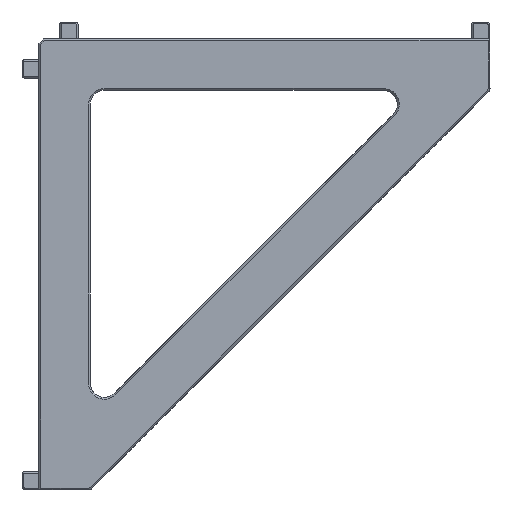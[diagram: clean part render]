
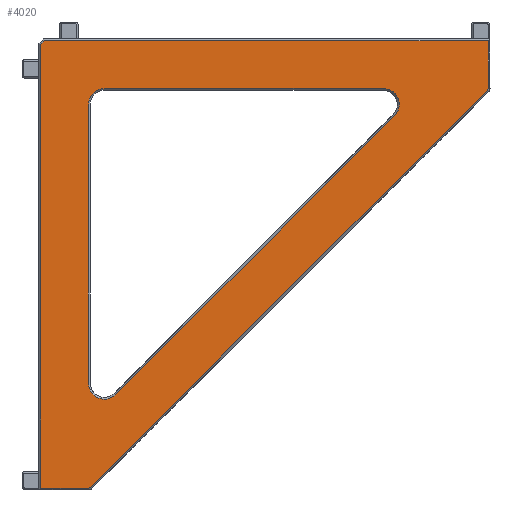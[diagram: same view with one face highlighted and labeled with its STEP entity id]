
A CAD part, front view. The second image highlights one B-rep face of the part: STEP entity #4020.
In plain terms, the highlighted planar face has unit normal (0, -1, 0).
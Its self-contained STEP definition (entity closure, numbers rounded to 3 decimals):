
#14 = EDGE_LOOP ( 'NONE', ( #2873, #1101, #154, #5363, #3598, #2654, #4991, #4289 ) ) ;
#29 = VECTOR ( 'NONE', #4853, 1000. ) ;
#44 = CARTESIAN_POINT ( 'NONE',  ( 49.8, 0., -2. ) ) ;
#123 = CARTESIAN_POINT ( 'NONE',  ( 0., 0., -2. ) ) ;
#152 = AXIS2_PLACEMENT_3D ( 'NONE', #1861, #3624, #5382 ) ;
#154 = ORIENTED_EDGE ( 'NONE', *, *, #3001, .F. ) ;
#204 = AXIS2_PLACEMENT_3D ( 'NONE', #820, #2581, #4347 ) ;
#218 = VERTEX_POINT ( 'NONE', #969 ) ;
#236 = CARTESIAN_POINT ( 'NONE',  ( 7.305, 0., -49.712 ) ) ;
#238 = DIRECTION ( 'NONE',  ( -1., 0., 0. ) ) ;
#258 = EDGE_CURVE ( 'NONE', #3916, #3828, #337, .T. ) ;
#337 = CIRCLE ( 'NONE', #152, 0.3 ) ;
#378 = ORIENTED_EDGE ( 'NONE', *, *, #757, .F. ) ;
#394 = FACE_BOUND ( 'NONE', #1380, .T. ) ;
#439 = DIRECTION ( 'NONE',  ( 0., -1., 0. ) ) ;
#473 = DIRECTION ( 'NONE',  ( 0., -1., 0. ) ) ;
#499 = CARTESIAN_POINT ( 'NONE',  ( 8.8, 0., -38.601 ) ) ;
#703 = AXIS2_PLACEMENT_3D ( 'NONE', #499, #2263, #4029 ) ;
#706 = ORIENTED_EDGE ( 'NONE', *, *, #4603, .F. ) ;
#757 = EDGE_CURVE ( 'NONE', #4040, #1920, #1449, .T. ) ;
#768 = VERTEX_POINT ( 'NONE', #5353 ) ;
#818 = LINE ( 'NONE', #2579, #1992 ) ;
#820 = CARTESIAN_POINT ( 'NONE',  ( 8.8, 0., -8.8 ) ) ;
#941 = DIRECTION ( 'NONE',  ( 0., 0., -1. ) ) ;
#969 = CARTESIAN_POINT ( 'NONE',  ( 7.093, 0., -49.8 ) ) ;
#1027 = CIRCLE ( 'NONE', #3533, 1.7 ) ;
#1078 = CARTESIAN_POINT ( 'NONE',  ( 10.002, 0., -39.803 ) ) ;
#1101 = ORIENTED_EDGE ( 'NONE', *, *, #3517, .F. ) ;
#1110 = CARTESIAN_POINT ( 'NONE',  ( 10.002, 0., -39.803 ) ) ;
#1134 = VERTEX_POINT ( 'NONE', #3357 ) ;
#1224 = CARTESIAN_POINT ( 'NONE',  ( 2., 0., -49.8 ) ) ;
#1325 = LINE ( 'NONE', #3092, #29 ) ;
#1333 = DIRECTION ( 'NONE',  ( -1., 0., 0. ) ) ;
#1380 = EDGE_LOOP ( 'NONE', ( #1896, #5158, #706, #2626, #5672, #378, #3344 ) ) ;
#1401 = LINE ( 'NONE', #3166, #4268 ) ;
#1449 = CIRCLE ( 'NONE', #703, 1.7 ) ;
#1466 = CARTESIAN_POINT ( 'NONE',  ( 7.1, 0., -8.8 ) ) ;
#1496 = AXIS2_PLACEMENT_3D ( 'NONE', #5681, #1729, #3496 ) ;
#1530 = AXIS2_PLACEMENT_3D ( 'NONE', #4403, #439, #2207 ) ;
#1661 = CARTESIAN_POINT ( 'NONE',  ( 2., 0., -2.383 ) ) ;
#1703 = LINE ( 'NONE', #3468, #3889 ) ;
#1729 = DIRECTION ( 'NONE',  ( 0., 1., 0. ) ) ;
#1756 = DIRECTION ( 'NONE',  ( -1., 0., 0. ) ) ;
#1758 = VERTEX_POINT ( 'NONE', #1466 ) ;
#1861 = CARTESIAN_POINT ( 'NONE',  ( 49.5, 0., -7.093 ) ) ;
#1887 = DIRECTION ( 'NONE',  ( 1., 0., 0. ) ) ;
#1896 = ORIENTED_EDGE ( 'NONE', *, *, #3884, .F. ) ;
#1920 = VERTEX_POINT ( 'NONE', #2901 ) ;
#1966 = CIRCLE ( 'NONE', #4462, 0.3 ) ;
#1992 = VECTOR ( 'NONE', #4345, 1000. ) ;
#2051 = VECTOR ( 'NONE', #1887, 1000. ) ;
#2158 = FACE_OUTER_BOUND ( 'NONE', #14, .T. ) ;
#2174 = EDGE_CURVE ( 'NONE', #3606, #5123, #5070, .T. ) ;
#2207 = DIRECTION ( 'NONE',  ( 0., 0., -1. ) ) ;
#2240 = DIRECTION ( 'NONE',  ( 0., 0., -1. ) ) ;
#2263 = DIRECTION ( 'NONE',  ( 0., -1., 0. ) ) ;
#2351 = VERTEX_POINT ( 'NONE', #1661 ) ;
#2434 = LINE ( 'NONE', #4196, #2784 ) ;
#2523 = VERTEX_POINT ( 'NONE', #44 ) ;
#2536 = EDGE_CURVE ( 'NONE', #1758, #4040, #3141, .T. ) ;
#2579 = CARTESIAN_POINT ( 'NONE',  ( 2., 0., -2.383 ) ) ;
#2581 = DIRECTION ( 'NONE',  ( 0., -1., 0. ) ) ;
#2626 = ORIENTED_EDGE ( 'NONE', *, *, #2174, .F. ) ;
#2654 = ORIENTED_EDGE ( 'NONE', *, *, #3265, .F. ) ;
#2717 = CARTESIAN_POINT ( 'NONE',  ( 39.803, 0., -10.002 ) ) ;
#2784 = VECTOR ( 'NONE', #238, 1000. ) ;
#2793 = VERTEX_POINT ( 'NONE', #4624 ) ;
#2873 = ORIENTED_EDGE ( 'NONE', *, *, #4080, .F. ) ;
#2875 = DIRECTION ( 'NONE',  ( 0.707, 0., 0.707 ) ) ;
#2901 = CARTESIAN_POINT ( 'NONE',  ( 8.8, 0., -40.301 ) ) ;
#2957 = CARTESIAN_POINT ( 'NONE',  ( 49.712, 0., -7.305 ) ) ;
#3001 = EDGE_CURVE ( 'NONE', #2351, #2793, #818, .T. ) ;
#3092 = CARTESIAN_POINT ( 'NONE',  ( 49.8, 0., 0. ) ) ;
#3103 = VECTOR ( 'NONE', #941, 1000. ) ;
#3141 = LINE ( 'NONE', #4904, #3103 ) ;
#3147 = EDGE_CURVE ( 'NONE', #1920, #3606, #4766, .T. ) ;
#3166 = CARTESIAN_POINT ( 'NONE',  ( 49.712, 0., -7.305 ) ) ;
#3265 = EDGE_CURVE ( 'NONE', #3688, #218, #1966, .T. ) ;
#3344 = ORIENTED_EDGE ( 'NONE', *, *, #2536, .F. ) ;
#3357 = CARTESIAN_POINT ( 'NONE',  ( 8.8, 0., -7.1 ) ) ;
#3435 = CIRCLE ( 'NONE', #204, 1.7 ) ;
#3460 = EDGE_CURVE ( 'NONE', #3828, #3688, #1401, .T. ) ;
#3468 = CARTESIAN_POINT ( 'NONE',  ( 2., 0., 0. ) ) ;
#3496 = DIRECTION ( 'NONE',  ( 0., 0., 1. ) ) ;
#3517 = EDGE_CURVE ( 'NONE', #2793, #2523, #4085, .T. ) ;
#3533 = AXIS2_PLACEMENT_3D ( 'NONE', #4436, #473, #2240 ) ;
#3535 = LINE ( 'NONE', #5292, #3837 ) ;
#3598 = ORIENTED_EDGE ( 'NONE', *, *, #5011, .F. ) ;
#3606 = VERTEX_POINT ( 'NONE', #1078 ) ;
#3624 = DIRECTION ( 'NONE',  ( 0., 1., 0. ) ) ;
#3688 = VERTEX_POINT ( 'NONE', #236 ) ;
#3828 = VERTEX_POINT ( 'NONE', #2957 ) ;
#3837 = VECTOR ( 'NONE', #1333, 1000. ) ;
#3884 = EDGE_CURVE ( 'NONE', #1134, #1758, #3435, .T. ) ;
#3889 = VECTOR ( 'NONE', #5234, 1000. ) ;
#3916 = VERTEX_POINT ( 'NONE', #4433 ) ;
#3924 = PLANE ( 'NONE',  #1496 ) ;
#3955 = CARTESIAN_POINT ( 'NONE',  ( 7.093, 0., -49.5 ) ) ;
#4020 = ADVANCED_FACE ( 'NONE', ( #394, #2158 ), #3924, .F. ) ;
#4029 = DIRECTION ( 'NONE',  ( 0., 0., -1. ) ) ;
#4040 = VERTEX_POINT ( 'NONE', #4388 ) ;
#4080 = EDGE_CURVE ( 'NONE', #2523, #3916, #1325, .T. ) ;
#4085 = LINE ( 'NONE', #123, #2051 ) ;
#4194 = VECTOR ( 'NONE', #2875, 1000. ) ;
#4196 = CARTESIAN_POINT ( 'NONE',  ( 0., 0., -7.1 ) ) ;
#4229 = EDGE_CURVE ( 'NONE', #768, #1134, #2434, .T. ) ;
#4268 = VECTOR ( 'NONE', #4930, 1000. ) ;
#4289 = ORIENTED_EDGE ( 'NONE', *, *, #258, .F. ) ;
#4345 = DIRECTION ( 'NONE',  ( 0.707, 0., 0.707 ) ) ;
#4347 = DIRECTION ( 'NONE',  ( 0., 0., -1. ) ) ;
#4381 = VERTEX_POINT ( 'NONE', #1224 ) ;
#4388 = CARTESIAN_POINT ( 'NONE',  ( 7.1, 0., -38.601 ) ) ;
#4403 = CARTESIAN_POINT ( 'NONE',  ( 8.8, 0., -38.601 ) ) ;
#4433 = CARTESIAN_POINT ( 'NONE',  ( 49.8, 0., -7.093 ) ) ;
#4436 = CARTESIAN_POINT ( 'NONE',  ( 38.601, 0., -8.8 ) ) ;
#4462 = AXIS2_PLACEMENT_3D ( 'NONE', #3955, #5710, #1756 ) ;
#4603 = EDGE_CURVE ( 'NONE', #5123, #768, #1027, .T. ) ;
#4624 = CARTESIAN_POINT ( 'NONE',  ( 2.383, 0., -2. ) ) ;
#4766 = CIRCLE ( 'NONE', #1530, 1.7 ) ;
#4853 = DIRECTION ( 'NONE',  ( 0., 0., -1. ) ) ;
#4904 = CARTESIAN_POINT ( 'NONE',  ( 7.1, 0., 0. ) ) ;
#4930 = DIRECTION ( 'NONE',  ( -0.707, 0., -0.707 ) ) ;
#4944 = EDGE_CURVE ( 'NONE', #4381, #2351, #1703, .T. ) ;
#4991 = ORIENTED_EDGE ( 'NONE', *, *, #3460, .F. ) ;
#5011 = EDGE_CURVE ( 'NONE', #218, #4381, #3535, .T. ) ;
#5070 = LINE ( 'NONE', #1110, #4194 ) ;
#5123 = VERTEX_POINT ( 'NONE', #2717 ) ;
#5158 = ORIENTED_EDGE ( 'NONE', *, *, #4229, .F. ) ;
#5234 = DIRECTION ( 'NONE',  ( 0., 0., 1. ) ) ;
#5292 = CARTESIAN_POINT ( 'NONE',  ( 0., 0., -49.8 ) ) ;
#5353 = CARTESIAN_POINT ( 'NONE',  ( 38.601, 0., -7.1 ) ) ;
#5363 = ORIENTED_EDGE ( 'NONE', *, *, #4944, .F. ) ;
#5382 = DIRECTION ( 'NONE',  ( 0., 0., 1. ) ) ;
#5672 = ORIENTED_EDGE ( 'NONE', *, *, #3147, .F. ) ;
#5681 = CARTESIAN_POINT ( 'NONE',  ( 0., 0., 0. ) ) ;
#5710 = DIRECTION ( 'NONE',  ( 0., 1., 0. ) ) ;
